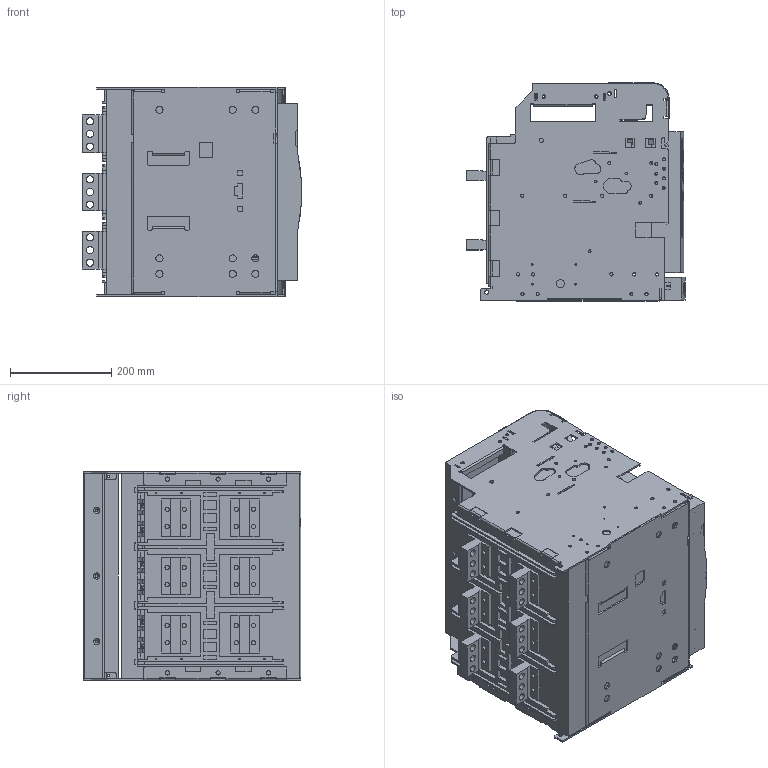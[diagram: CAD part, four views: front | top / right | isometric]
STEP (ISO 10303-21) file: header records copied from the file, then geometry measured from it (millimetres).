
FILE_DESCRIPTION (( 'STEP AP214' ), '1' );
FILE_NAME ('OptiMat A-S4-BH-2500-3200-3P-D-H.STEP', '2023-08-01T10:49:06', ( '' ), ( '' ), 'SwSTEP 2.0', 'SolidWorks 2018', '' );
FILE_SCHEMA (( 'AUTOMOTIVE_DESIGN' ));
Length unit declared in the file: millimetre
Products named in the file (1): OptiMat A-S4-BH-2500-3200-3P-D-H
Bounding box: 433.8 x 431.5 x 415 mm (x, y, z)
Volume: 47939806.8 mm3; surface area: 2220773.5 mm2
Topology: 10 solids, 23 shells, 3818 faces, 10542 edges, 6907 vertices
Faces by surface type: plane 2479, cylinder 1143, cone 103, torus 45, bspline 36, sphere 12
Entity records: 170058 total; most frequent: CARTESIAN_POINT 30569, ORIENTED_EDGE 21040, DIRECTION 20131, EDGE_CURVE 10520, VECTOR 7649, LINE 7649, VERTEX_POINT 6907, AXIS2_PLACEMENT_3D 6241
